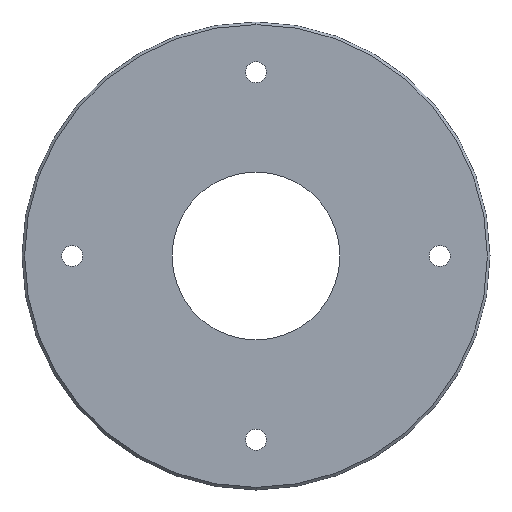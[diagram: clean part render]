
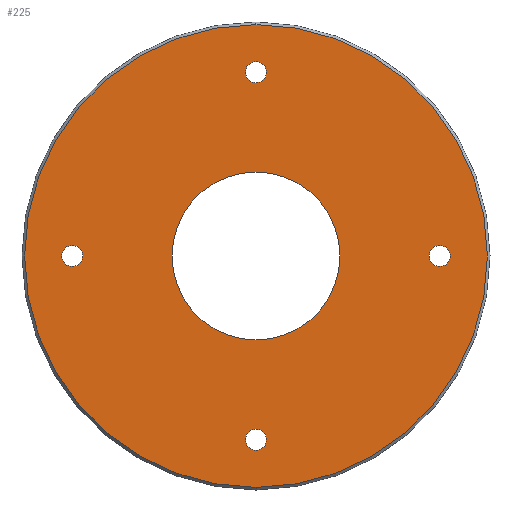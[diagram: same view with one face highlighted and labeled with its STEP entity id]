
A CAD part, left-side view. The second image highlights one B-rep face of the part: STEP entity #225.
In plain terms, the highlighted planar face has unit normal (-1, 0, 0).
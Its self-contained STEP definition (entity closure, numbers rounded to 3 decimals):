
#12 = CARTESIAN_POINT ( 'NONE',  ( 0., 69.85, -4. ) ) ;
#22 = VERTEX_POINT ( 'NONE', #202 ) ;
#27 = CARTESIAN_POINT ( 'NONE',  ( 0., 0., 87.9 ) ) ;
#31 = ORIENTED_EDGE ( 'NONE', *, *, #320, .F. ) ;
#34 = EDGE_CURVE ( 'NONE', #149, #22, #484, .T. ) ;
#37 = EDGE_LOOP ( 'NONE', ( #222, #370 ) ) ;
#55 = DIRECTION ( 'NONE',  ( 1., 0., 0. ) ) ;
#56 = CARTESIAN_POINT ( 'NONE',  ( 0., 69.85, 4. ) ) ;
#62 = EDGE_CURVE ( 'NONE', #510, #605, #252, .T. ) ;
#67 = EDGE_CURVE ( 'NONE', #213, #529, #288, .T. ) ;
#68 = CARTESIAN_POINT ( 'NONE',  ( 0., 69.85, 0. ) ) ;
#69 = DIRECTION ( 'NONE',  ( 1., 0., 0. ) ) ;
#72 = DIRECTION ( 'NONE',  ( 0., 0., 1. ) ) ;
#73 = CARTESIAN_POINT ( 'NONE',  ( 0., 0., 0. ) ) ;
#80 = VERTEX_POINT ( 'NONE', #469 ) ;
#81 = CARTESIAN_POINT ( 'NONE',  ( 0., 87.9, 0. ) ) ;
#86 = AXIS2_PLACEMENT_3D ( 'NONE', #597, #69, #72 ) ;
#87 = DIRECTION ( 'NONE',  ( 1., 0., 0. ) ) ;
#90 = DIRECTION ( 'NONE',  ( 0., 0., 1. ) ) ;
#106 = DIRECTION ( 'NONE',  ( 1., 0., 0. ) ) ;
#108 = DIRECTION ( 'NONE',  ( 0., 0., -1. ) ) ;
#114 = CIRCLE ( 'NONE', #537, 4. ) ;
#115 = DIRECTION ( 'NONE',  ( 0., 0., 1. ) ) ;
#118 = DIRECTION ( 'NONE',  ( 1., 0., 0. ) ) ;
#119 = AXIS2_PLACEMENT_3D ( 'NONE', #73, #180, #174 ) ;
#123 = CARTESIAN_POINT ( 'NONE',  ( 0., 0., -69.85 ) ) ;
#128 = DIRECTION ( 'NONE',  ( 1., 0., 0. ) ) ;
#129 = CARTESIAN_POINT ( 'NONE',  ( 0., -69.85, 0. ) ) ;
#133 = DIRECTION ( 'NONE',  ( 1., 0., 0. ) ) ;
#137 = EDGE_CURVE ( 'NONE', #22, #149, #170, .T. ) ;
#138 = DIRECTION ( 'NONE',  ( 1., 0., 0. ) ) ;
#140 = EDGE_LOOP ( 'NONE', ( #254, #31 ) ) ;
#143 = CIRCLE ( 'NONE', #86, 4. ) ;
#145 = CARTESIAN_POINT ( 'NONE',  ( 0., 0., 0. ) ) ;
#147 = AXIS2_PLACEMENT_3D ( 'NONE', #188, #87, #322 ) ;
#149 = VERTEX_POINT ( 'NONE', #248 ) ;
#151 = AXIS2_PLACEMENT_3D ( 'NONE', #457, #375, #167 ) ;
#156 = EDGE_LOOP ( 'NONE', ( #390, #463 ) ) ;
#158 = DIRECTION ( 'NONE',  ( 1., 0., 0. ) ) ;
#160 = DIRECTION ( 'NONE',  ( 0., 0., 1. ) ) ;
#164 = FACE_BOUND ( 'NONE', #37, .T. ) ;
#166 = EDGE_CURVE ( 'NONE', #605, #510, #538, .T. ) ;
#167 = DIRECTION ( 'NONE',  ( 0., 0., -1. ) ) ;
#168 = CIRCLE ( 'NONE', #151, 87.9 ) ;
#169 = CARTESIAN_POINT ( 'NONE',  ( 0., 0., -87.9 ) ) ;
#170 = CIRCLE ( 'NONE', #147, 4. ) ;
#174 = DIRECTION ( 'NONE',  ( 0., 0., -1. ) ) ;
#180 = DIRECTION ( 'NONE',  ( 1., 0., 0. ) ) ;
#186 = CARTESIAN_POINT ( 'NONE',  ( 0., 0., 31.9 ) ) ;
#188 = CARTESIAN_POINT ( 'NONE',  ( 0., 0., 69.85 ) ) ;
#191 = CARTESIAN_POINT ( 'NONE',  ( 0., -69.85, 0. ) ) ;
#202 = CARTESIAN_POINT ( 'NONE',  ( 0., 0., 65.85 ) ) ;
#203 = CARTESIAN_POINT ( 'NONE',  ( 0., 0., 0. ) ) ;
#206 = DIRECTION ( 'NONE',  ( 0., 0., 1. ) ) ;
#212 = EDGE_LOOP ( 'NONE', ( #470, #379 ) ) ;
#213 = VERTEX_POINT ( 'NONE', #232 ) ;
#216 = CIRCLE ( 'NONE', #308, 4. ) ;
#222 = ORIENTED_EDGE ( 'NONE', *, *, #351, .T. ) ;
#225 = ADVANCED_FACE ( 'NONE', ( #408, #319, #164, #302, #520, #343 ), #297, .F. ) ;
#232 = CARTESIAN_POINT ( 'NONE',  ( 0., -69.85, 4. ) ) ;
#238 = DIRECTION ( 'NONE',  ( 0., 0., 1. ) ) ;
#240 = DIRECTION ( 'NONE',  ( 1., 0., 0. ) ) ;
#248 = CARTESIAN_POINT ( 'NONE',  ( 0., 0., 73.85 ) ) ;
#250 = CIRCLE ( 'NONE', #446, 4. ) ;
#252 = CIRCLE ( 'NONE', #318, 31.9 ) ;
#254 = ORIENTED_EDGE ( 'NONE', *, *, #483, .F. ) ;
#261 = VERTEX_POINT ( 'NONE', #56 ) ;
#263 = CARTESIAN_POINT ( 'NONE',  ( 0., 0., 69.85 ) ) ;
#279 = EDGE_LOOP ( 'NONE', ( #504, #394 ) ) ;
#284 = CARTESIAN_POINT ( 'NONE',  ( 0., 0., -69.85 ) ) ;
#288 = CIRCLE ( 'NONE', #362, 4. ) ;
#297 = PLANE ( 'NONE',  #384 ) ;
#301 = CIRCLE ( 'NONE', #540, 4. ) ;
#302 = FACE_BOUND ( 'NONE', #212, .T. ) ;
#308 = AXIS2_PLACEMENT_3D ( 'NONE', #68, #158, #418 ) ;
#318 = AXIS2_PLACEMENT_3D ( 'NONE', #203, #133, #90 ) ;
#319 = FACE_BOUND ( 'NONE', #572, .T. ) ;
#320 = EDGE_CURVE ( 'NONE', #405, #485, #454, .T. ) ;
#322 = DIRECTION ( 'NONE',  ( 0., 0., 1. ) ) ;
#336 = DIRECTION ( 'NONE',  ( 0., 0., 1. ) ) ;
#338 = VERTEX_POINT ( 'NONE', #12 ) ;
#343 = FACE_BOUND ( 'NONE', #156, .T. ) ;
#351 = EDGE_CURVE ( 'NONE', #451, #80, #114, .T. ) ;
#362 = AXIS2_PLACEMENT_3D ( 'NONE', #129, #55, #206 ) ;
#367 = ORIENTED_EDGE ( 'NONE', *, *, #62, .T. ) ;
#370 = ORIENTED_EDGE ( 'NONE', *, *, #522, .T. ) ;
#375 = DIRECTION ( 'NONE',  ( 1., 0., 0. ) ) ;
#379 = ORIENTED_EDGE ( 'NONE', *, *, #587, .T. ) ;
#382 = CARTESIAN_POINT ( 'NONE',  ( 0., -69.85, -4. ) ) ;
#384 = AXIS2_PLACEMENT_3D ( 'NONE', #81, #106, #108 ) ;
#390 = ORIENTED_EDGE ( 'NONE', *, *, #604, .T. ) ;
#392 = AXIS2_PLACEMENT_3D ( 'NONE', #145, #138, #238 ) ;
#394 = ORIENTED_EDGE ( 'NONE', *, *, #137, .T. ) ;
#403 = DIRECTION ( 'NONE',  ( 1., 0., 0. ) ) ;
#405 = VERTEX_POINT ( 'NONE', #27 ) ;
#408 = FACE_OUTER_BOUND ( 'NONE', #140, .T. ) ;
#416 = CARTESIAN_POINT ( 'NONE',  ( 0., 0., -65.85 ) ) ;
#418 = DIRECTION ( 'NONE',  ( 0., 0., 1. ) ) ;
#446 = AXIS2_PLACEMENT_3D ( 'NONE', #284, #240, #336 ) ;
#448 = CARTESIAN_POINT ( 'NONE',  ( 0., 0., -31.9 ) ) ;
#451 = VERTEX_POINT ( 'NONE', #416 ) ;
#454 = CIRCLE ( 'NONE', #119, 87.9 ) ;
#457 = CARTESIAN_POINT ( 'NONE',  ( 0., 0., 0. ) ) ;
#463 = ORIENTED_EDGE ( 'NONE', *, *, #556, .T. ) ;
#469 = CARTESIAN_POINT ( 'NONE',  ( 0., 0., -73.85 ) ) ;
#470 = ORIENTED_EDGE ( 'NONE', *, *, #67, .T. ) ;
#483 = EDGE_CURVE ( 'NONE', #485, #405, #168, .T. ) ;
#484 = CIRCLE ( 'NONE', #515, 4. ) ;
#485 = VERTEX_POINT ( 'NONE', #169 ) ;
#504 = ORIENTED_EDGE ( 'NONE', *, *, #34, .T. ) ;
#510 = VERTEX_POINT ( 'NONE', #448 ) ;
#515 = AXIS2_PLACEMENT_3D ( 'NONE', #263, #403, #560 ) ;
#520 = FACE_BOUND ( 'NONE', #279, .T. ) ;
#522 = EDGE_CURVE ( 'NONE', #80, #451, #250, .T. ) ;
#529 = VERTEX_POINT ( 'NONE', #382 ) ;
#534 = ORIENTED_EDGE ( 'NONE', *, *, #166, .T. ) ;
#537 = AXIS2_PLACEMENT_3D ( 'NONE', #123, #128, #160 ) ;
#538 = CIRCLE ( 'NONE', #392, 31.9 ) ;
#540 = AXIS2_PLACEMENT_3D ( 'NONE', #191, #118, #115 ) ;
#556 = EDGE_CURVE ( 'NONE', #338, #261, #216, .T. ) ;
#560 = DIRECTION ( 'NONE',  ( 0., 0., 1. ) ) ;
#572 = EDGE_LOOP ( 'NONE', ( #534, #367 ) ) ;
#587 = EDGE_CURVE ( 'NONE', #529, #213, #301, .T. ) ;
#597 = CARTESIAN_POINT ( 'NONE',  ( 0., 69.85, 0. ) ) ;
#604 = EDGE_CURVE ( 'NONE', #261, #338, #143, .T. ) ;
#605 = VERTEX_POINT ( 'NONE', #186 ) ;
